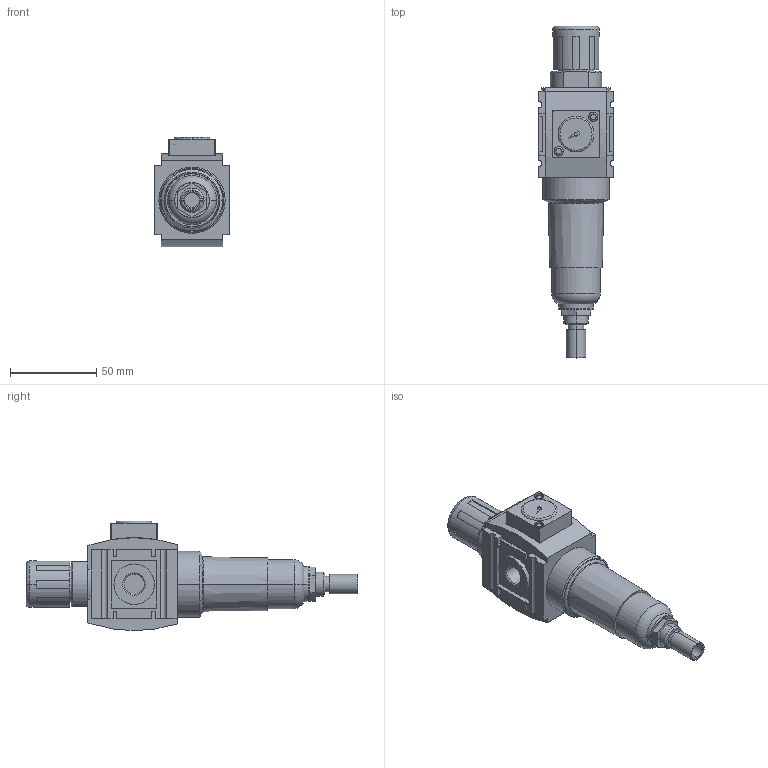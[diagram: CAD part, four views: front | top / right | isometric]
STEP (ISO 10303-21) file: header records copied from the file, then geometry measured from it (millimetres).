
FILE_DESCRIPTION((''),'2;1');
FILE_NAME('R412014660_ASM','2019-03-18T',('vol1hc'),(''),'CREO PARAMETRIC BY PTC INC, 2016260','CREO PARAMETRIC BY PTC INC, 2016260','');
FILE_SCHEMA(('CONFIG_CONTROL_DESIGN'));
Length unit declared in the file: millimetre
Products named in the file (4): R412014660; R412014761; AS1_RES_METAL_FILTER_FULLY; R412014660_ASM
Assembly tree (3 placements, depth 2):
  R412014660_ASM
    R412014660
    R412014761
    AS1_RES_METAL_FILTER_FULLY
Bounding box: 43 x 192.8 x 63.5 mm (x, y, z)
Volume: 193374 mm3; surface area: 38011.5 mm2
Topology: 3 solids, 3 shells, 259 faces, 643 edges, 418 vertices
Faces by surface type: plane 149, cylinder 76, cone 22, torus 12
Entity records: 7834 total; most frequent: DIRECTION 1395, CARTESIAN_POINT 1343, ORIENTED_EDGE 1286, EDGE_CURVE 643, AXIS2_PLACEMENT_3D 490, VERTEX_POINT 418, VECTOR 415, LINE 415
